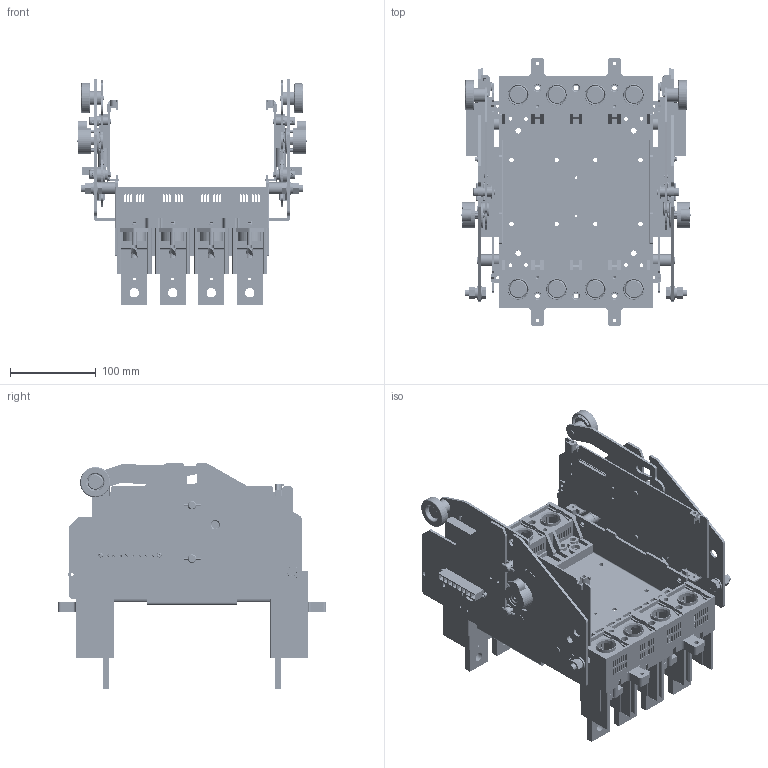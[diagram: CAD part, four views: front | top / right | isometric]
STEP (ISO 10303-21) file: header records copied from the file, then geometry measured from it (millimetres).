
FILE_DESCRIPTION (( 'STEP AP214' ), '1' );
FILE_NAME ('3popitka.STEP', '2025-11-26T06:32:40', ( '' ), ( '' ), 'SwSTEP 2.0', 'SolidWorks 2024', '' );
FILE_SCHEMA (( 'AUTOMOTIVE_DESIGN' ));
Length unit declared in the file: millimetre
Products named in the file (2): 400-630 DOB 4P.stp; 3popitka
Assembly tree (1 placements, depth 2):
  3popitka
    400-630 DOB 4P.stp
Bounding box: 268 x 313 x 263.5 mm (x, y, z)
Surface area: 995205 mm2 (no closed solid volume)
Topology: 0 solids, 167 shells, 9544 faces, 25732 edges, 16654 vertices
Faces by surface type: plane 4898, cylinder 3700, bspline 504, cone 402, torus 40
Full cylindrical faces by diameter (mm): 2.6 x4
Entity records: 347430 total; most frequent: CARTESIAN_POINT 106757, ORIENTED_EDGE 51148, DIRECTION 48456, EDGE_CURVE 25588, VERTEX_POINT 16654, LINE 16272, VECTOR 16272, AXIS2_PLACEMENT_3D 16092
